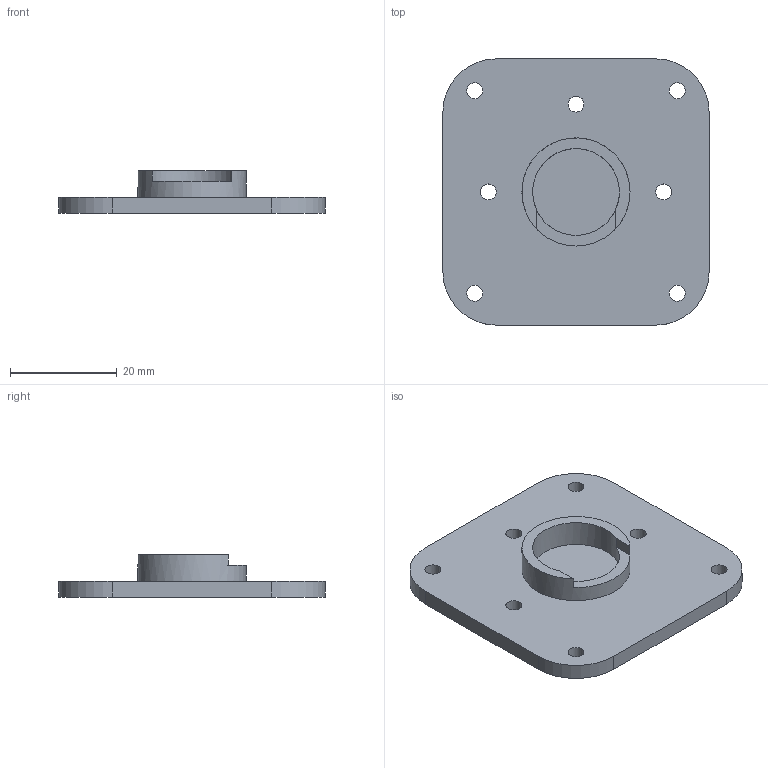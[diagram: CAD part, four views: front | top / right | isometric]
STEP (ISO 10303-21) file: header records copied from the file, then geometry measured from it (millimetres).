
FILE_DESCRIPTION(/* description */ (''),/* implementation_level */ '2;1');
FILE_NAME(/* name */ 'Base_Plate.step',/* time_stamp */ '2026-01-10T17:44:44+05:30',/* author */ (''),/* organization */ (''),/* preprocessor_version */ 'ST-DEVELOPER v20.1',/* originating_system */ 'Autodesk Translation Framework v14.21.0.0',/* authorisation */ '');
FILE_SCHEMA (('AUTOMOTIVE_DESIGN { 1 0 10303 214 3 1 1 }'));
Length unit declared in the file: millimetre
Products named in the file (1): Base Plate
Bounding box: 50 x 50 x 8 mm (x, y, z)
Volume: 7598.1 mm3; surface area: 5993.4 mm2
Topology: 1 solids, 1 shells, 24 faces, 63 edges, 42 vertices
Faces by surface type: cylinder 13, plane 11
Full cylindrical faces by diameter (mm): 3 x7, 16.3 x1, 20.3 x1
Entity records: 825 total; most frequent: DIRECTION 143, CARTESIAN_POINT 130, ORIENTED_EDGE 126, EDGE_CURVE 63, AXIS2_PLACEMENT_3D 55, VERTEX_POINT 42, EDGE_LOOP 39, LINE 33
